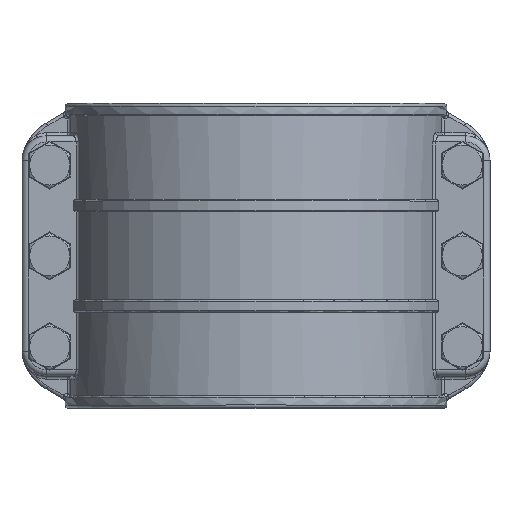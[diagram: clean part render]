
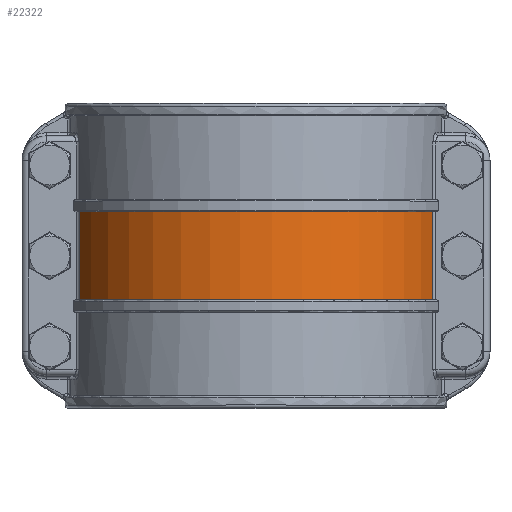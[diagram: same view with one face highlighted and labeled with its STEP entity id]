
A CAD part, top view. The second image highlights one B-rep face of the part: STEP entity #22322.
In plain terms, the highlighted cylindrical face has radius 60.6 mm (diameter 121.2 mm), a partial arc.
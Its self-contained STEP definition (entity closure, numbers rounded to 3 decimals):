
#1254 = DIRECTION ( 'NONE',  ( 0., -1., 0. ) ) ;
#2850 = VERTEX_POINT ( 'NONE', #21684 ) ;
#3599 = ORIENTED_EDGE ( 'NONE', *, *, #13053, .T. ) ;
#4873 = VERTEX_POINT ( 'NONE', #28017 ) ;
#5853 = EDGE_LOOP ( 'NONE', ( #17219, #17434, #28382, #3599 ) ) ;
#6334 = DIRECTION ( 'NONE',  ( 0., -1., 0. ) ) ;
#7269 = CARTESIAN_POINT ( 'NONE',  ( 57.484, 14.3, 19.183 ) ) ;
#10439 = DIRECTION ( 'NONE',  ( 0., -1., 0. ) ) ;
#13053 = EDGE_CURVE ( 'NONE', #42976, #4873, #17870, .T. ) ;
#15349 = DIRECTION ( 'NONE',  ( -1., 0., 0. ) ) ;
#17219 = ORIENTED_EDGE ( 'NONE', *, *, #21442, .F. ) ;
#17434 = ORIENTED_EDGE ( 'NONE', *, *, #18588, .T. ) ;
#17437 = CARTESIAN_POINT ( 'NONE',  ( 0., 14.3, 0. ) ) ;
#17870 = LINE ( 'NONE', #31418, #39957 ) ;
#18588 = EDGE_CURVE ( 'NONE', #2850, #39323, #43454, .T. ) ;
#19352 = VECTOR ( 'NONE', #36102, 1000. ) ;
#21079 = AXIS2_PLACEMENT_3D ( 'NONE', #24082, #6334, #42287 ) ;
#21442 = EDGE_CURVE ( 'NONE', #2850, #4873, #36551, .T. ) ;
#21684 = CARTESIAN_POINT ( 'NONE',  ( 57.484, -14.3, 19.183 ) ) ;
#22322 = ADVANCED_FACE ( 'NONE', ( #30082 ), #34056, .T. ) ;
#23558 = CIRCLE ( 'NONE', #38254, 60.6 ) ;
#24082 = CARTESIAN_POINT ( 'NONE',  ( 0., -49.5, 0. ) ) ;
#24568 = DIRECTION ( 'NONE',  ( 0., -1., 0. ) ) ;
#25461 = CARTESIAN_POINT ( 'NONE',  ( 57.484, -49.5, 19.183 ) ) ;
#26146 = EDGE_CURVE ( 'NONE', #39323, #42976, #23558, .T. ) ;
#28017 = CARTESIAN_POINT ( 'NONE',  ( -57.484, -14.3, 19.183 ) ) ;
#28382 = ORIENTED_EDGE ( 'NONE', *, *, #26146, .T. ) ;
#30082 = FACE_OUTER_BOUND ( 'NONE', #5853, .T. ) ;
#31418 = CARTESIAN_POINT ( 'NONE',  ( -57.484, -49.5, 19.183 ) ) ;
#32882 = CARTESIAN_POINT ( 'NONE',  ( 0., -14.3, 0. ) ) ;
#34056 = CYLINDRICAL_SURFACE ( 'NONE', #21079, 60.6 ) ;
#36102 = DIRECTION ( 'NONE',  ( 0., 1., 0. ) ) ;
#36551 = CIRCLE ( 'NONE', #40195, 60.6 ) ;
#38254 = AXIS2_PLACEMENT_3D ( 'NONE', #17437, #24568, #38634 ) ;
#38634 = DIRECTION ( 'NONE',  ( -1., 0., 0. ) ) ;
#39323 = VERTEX_POINT ( 'NONE', #7269 ) ;
#39957 = VECTOR ( 'NONE', #10439, 1000. ) ;
#40195 = AXIS2_PLACEMENT_3D ( 'NONE', #32882, #1254, #15349 ) ;
#40785 = CARTESIAN_POINT ( 'NONE',  ( -57.484, 14.3, 19.183 ) ) ;
#42287 = DIRECTION ( 'NONE',  ( -1., 0., 0. ) ) ;
#42976 = VERTEX_POINT ( 'NONE', #40785 ) ;
#43454 = LINE ( 'NONE', #25461, #19352 ) ;
